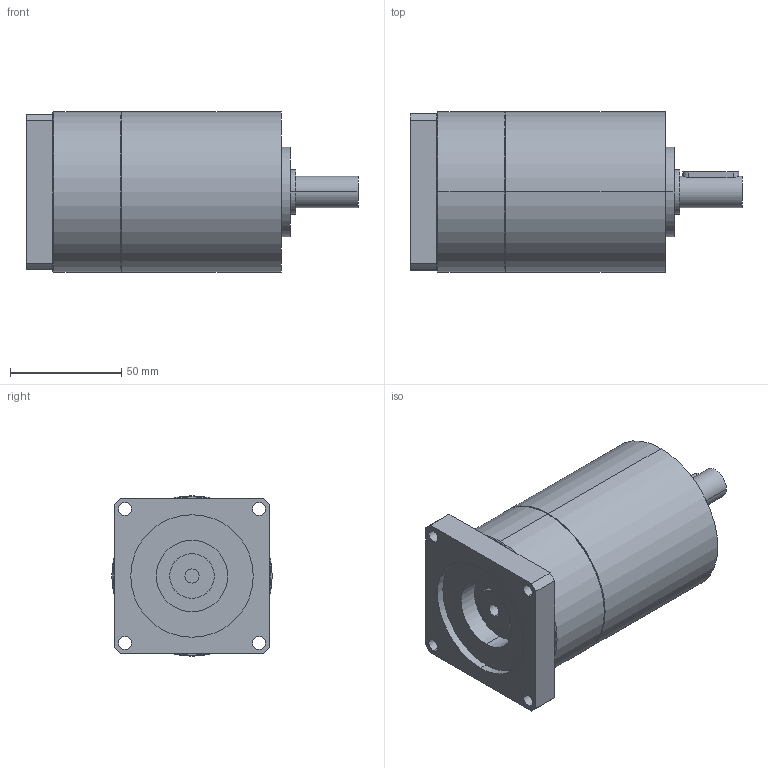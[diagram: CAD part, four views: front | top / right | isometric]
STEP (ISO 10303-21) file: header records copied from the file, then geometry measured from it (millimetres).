
FILE_DESCRIPTION(('CoCreate Modeling STEP Export'),'2;1');
FILE_NAME('GPT75_ig-9-12-16-20-25-28-35-40-50-70-100_14_B14T_6.35_P25.stp','2014-08-27T13:19:32',(''),(''),'CoCreate Modeling STEP processor for AP214 (Solid Model)','CoCreate Modeling 16.00C 25-Feb-2009 (C) Parametric Technology GmbH','');
FILE_SCHEMA(('AUTOMOTIVE_DESIGN { 1 0 10303 214 1 1 1 1 }'));
Length unit declared in the file: millimetre
Products named in the file (2): GPT75_ig-9-12-16-20-25-28-35-40-50-70-100_14_B14T_6.35_P25
Assembly tree (1 placements, depth 2):
  GPT75_ig-9-12-16-20-25-28-35-40-50-70-100_14_B14T_6.35_P25
    GPT75_ig-9-12-16-20-25-28-35-40-50-70-100_14_B14T_6.35_P25
Bounding box: 149 x 72 x 72 mm (x, y, z)
Volume: 468902.9 mm3; surface area: 42399 mm2
Topology: 1 solids, 1 shells, 76 faces, 182 edges, 121 vertices
Faces by surface type: cylinder 42, plane 30, cone 4
Entity records: 2265 total; most frequent: CARTESIAN_POINT 677, ORIENTED_EDGE 364, DIRECTION 268, EDGE_CURVE 182, VERTEX_POINT 121, AXIS2_PLACEMENT_3D 100, EDGE_LOOP 97, FACE_OUTER_BOUND 76
